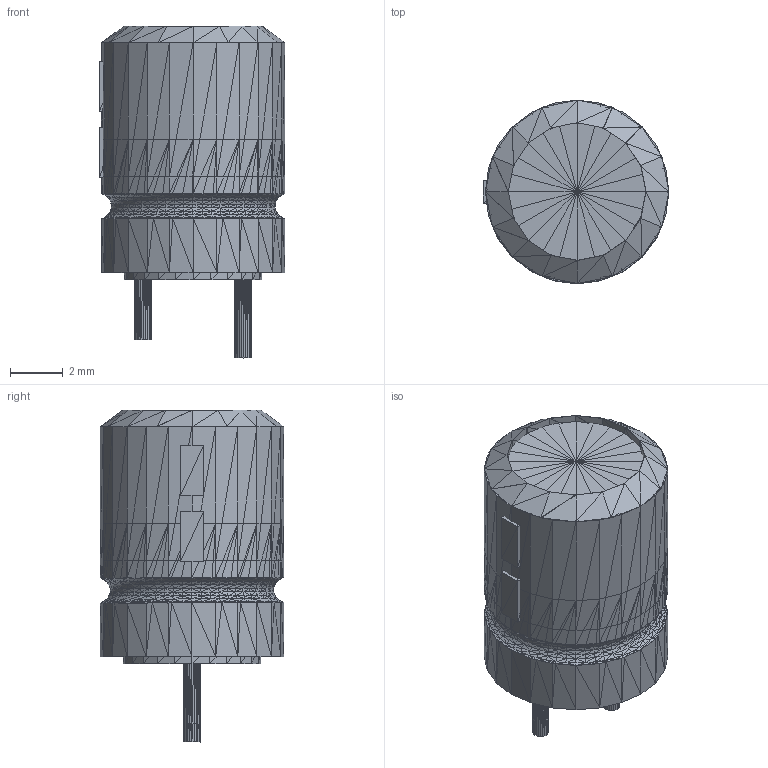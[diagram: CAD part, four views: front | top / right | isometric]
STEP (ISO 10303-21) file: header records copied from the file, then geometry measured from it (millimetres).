
FILE_DESCRIPTION(('HOOPS Exchange Step'),'2;1');
FILE_NAME('***.stp');
FILE_SCHEMA( ('AP242_MANAGED_MODEL_BASED_3D_ENGINEERING_MIM_LF {1 0 10303 442 1 1 4 }') );
Length unit declared in the file: inch
Products named in the file (10): RADPOLCAPMDSM2_2; RADPOLCAPMDSM2_3; RADPOLCAPMDSM2_4; RADPOLCAPMDSM2_5; RADPOLCAPMDSM2_6; RADPOLCAPMDSM2_7; RADPOLCAPMDSM2_8; RADPOLCAPMDSM2_9; RADPOLCAPMDSM2_10; RADPOLCAPMDSM2
Assembly tree (9 placements, depth 2):
  RADPOLCAPMDSM2
    RADPOLCAPMDSM2_2
    RADPOLCAPMDSM2_3
    RADPOLCAPMDSM2_4
    RADPOLCAPMDSM2_5
    RADPOLCAPMDSM2_6
    RADPOLCAPMDSM2_7
    RADPOLCAPMDSM2_8
    RADPOLCAPMDSM2_9
    RADPOLCAPMDSM2_10
Bounding box: 7.07 x 6.99 x 12.64 mm (x, y, z)
Surface area: 1127.3 mm2 (no closed solid volume)
Topology: 0 solids, 3884 shells, 3884 faces, 9384 edges, 8894 vertices
Faces by surface type: plane 3884
Entity records: 116470 total; most frequent: CARTESIAN_POINT 22182, DIRECTION 17192, ORIENTED_EDGE 11652, VECTOR 9384, LINE 9384, EDGE_CURVE 9384, VERTEX_POINT 8894, AXIS2_PLACEMENT_3D 3904
